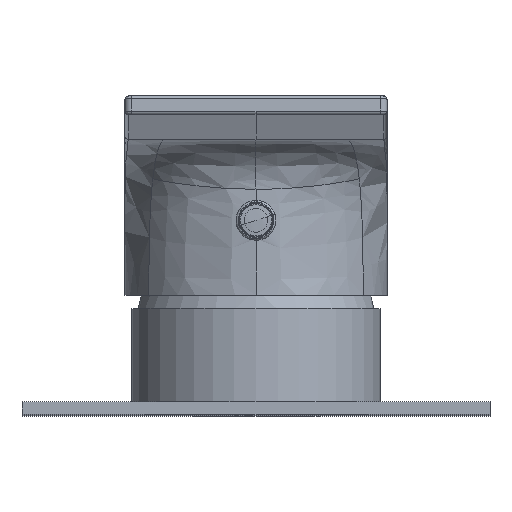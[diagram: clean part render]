
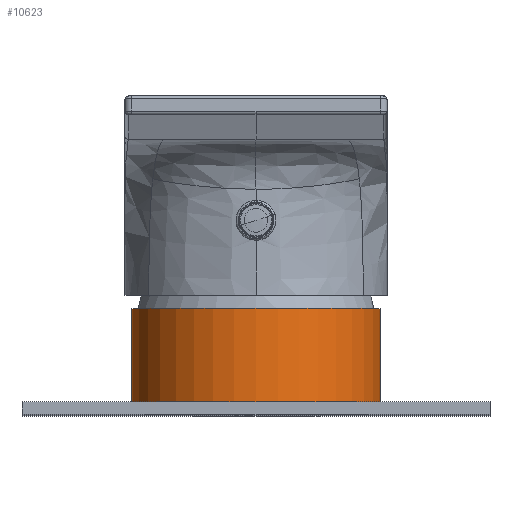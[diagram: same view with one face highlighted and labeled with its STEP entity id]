
A CAD part, top view. The second image highlights one B-rep face of the part: STEP entity #10623.
In plain terms, the highlighted cylindrical face has radius 20 mm (diameter 40 mm), a partial arc.
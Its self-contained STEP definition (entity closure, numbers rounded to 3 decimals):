
#3090=CARTESIAN_POINT('',(0.,80.,-67.5));
#3091=DIRECTION('',(0.,1.,0.));
#3092=DIRECTION('',(-1.,0.,0.));
#3093=AXIS2_PLACEMENT_3D('',#3090,#3091,#3092);
#3095=DIRECTION('',(0.,1.,0.));
#3096=VECTOR('',#3095,17.);
#3097=CARTESIAN_POINT('',(-20.,80.,-67.5));
#3098=LINE('',#3097,#3096);
#3099=DIRECTION('',(0.,1.,0.));
#3100=VECTOR('',#3099,17.);
#3101=CARTESIAN_POINT('',(20.,80.,-67.5));
#3102=LINE('',#3101,#3100);
#3103=CARTESIAN_POINT('',(0.,97.,-67.5));
#3104=DIRECTION('',(0.,-1.,0.));
#3105=DIRECTION('',(1.,0.,0.));
#3106=AXIS2_PLACEMENT_3D('',#3103,#3104,#3105);
#7675=CARTESIAN_POINT('',(20.,97.,-67.5));
#7676=CARTESIAN_POINT('',(-20.,97.,-67.5));
#7677=VERTEX_POINT('',#7675);
#7678=VERTEX_POINT('',#7676);
#7709=CARTESIAN_POINT('',(20.,80.,-67.5));
#7710=CARTESIAN_POINT('',(-20.,80.,-67.5));
#7711=VERTEX_POINT('',#7709);
#7712=VERTEX_POINT('',#7710);
#10611=CARTESIAN_POINT('',(0.,53.425,-67.5));
#10612=DIRECTION('',(0.,1.,0.));
#10613=DIRECTION('',(1.,0.,0.));
#10614=AXIS2_PLACEMENT_3D('',#10611,#10612,#10613);
#10615=CYLINDRICAL_SURFACE('',#10614,20.);
#10616=ORIENTED_EDGE('',*,*,#10586,.F.);
#10617=ORIENTED_EDGE('',*,*,#10606,.T.);
#10619=ORIENTED_EDGE('',*,*,#10618,.F.);
#10620=ORIENTED_EDGE('',*,*,#10602,.F.);
#10621=EDGE_LOOP('',(#10616,#10617,#10619,#10620));
#10622=FACE_OUTER_BOUND('',#10621,.F.);
#10623=ADVANCED_FACE('',(#10622),#10615,.T.);
#3094=CIRCLE('',#3093,20.);
#3107=CIRCLE('',#3106,20.);
#10586=EDGE_CURVE('',#7712,#7711,#3094,.T.);
#10602=EDGE_CURVE('',#7711,#7677,#3102,.T.);
#10606=EDGE_CURVE('',#7712,#7678,#3098,.T.);
#10618=EDGE_CURVE('',#7677,#7678,#3107,.T.);
